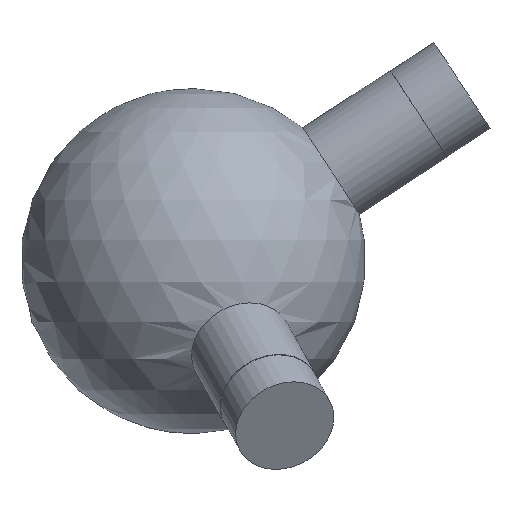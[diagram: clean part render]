
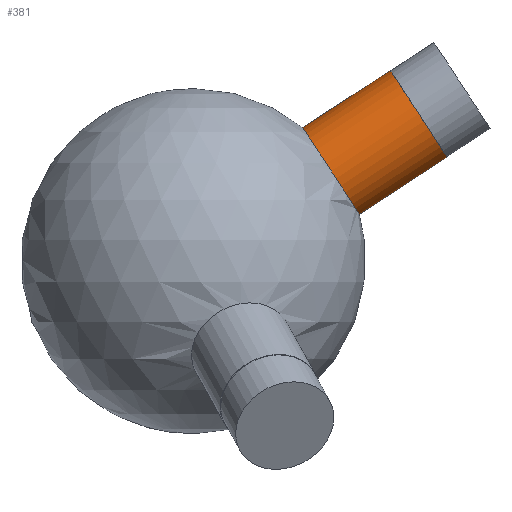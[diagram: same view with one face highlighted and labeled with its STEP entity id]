
A CAD part, front view. The second image highlights one B-rep face of the part: STEP entity #381.
In plain terms, the highlighted cylindrical face has radius 6 mm (diameter 12 mm), a full revolution.
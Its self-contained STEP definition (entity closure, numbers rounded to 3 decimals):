
#22 = VERTEX_POINT('',#23);
#23 = CARTESIAN_POINT('',(12.69,0.,
    15.459));
#33 = SPHERICAL_SURFACE('',#34,20.);
#34 = AXIS2_PLACEMENT_3D('',#35,#36,#37);
#35 = CARTESIAN_POINT('',(0.,0.,0.));
#36 = DIRECTION('',(0.,0.,1.));
#37 = DIRECTION('',(1.,0.,-0.));
#53 = EDGE_CURVE('',#54,#22,#56,.T.);
#54 = VERTEX_POINT('',#55);
#55 = CARTESIAN_POINT('',(12.688,0.108,15.459
    ));
#56 = SURFACE_CURVE('',#57,(#62,#72),.PCURVE_S1.);
#57 = CIRCLE('',#58,6.);
#58 = AXIS2_PLACEMENT_3D('',#59,#60,#61);
#59 = CARTESIAN_POINT('',(15.971,0.108,10.437
    ));
#60 = DIRECTION('',(0.837,0.006,0.547));
#61 = DIRECTION('',(-0.547,0.,0.837)
  );
#62 = PCURVE('',#33,#63);
#63 = DEFINITIONAL_REPRESENTATION('',(#64),#71);
#64 = B_SPLINE_CURVE_WITH_KNOTS('',5,(#65,#66,#67,#68,#69,#70),
  .UNSPECIFIED.,.F.,.F.,(6,6),(0.,0.018),
  .PIECEWISE_BEZIER_KNOTS.);
#65 = CARTESIAN_POINT('',(0.008,0.884));
#66 = CARTESIAN_POINT('',(0.007,0.884));
#67 = CARTESIAN_POINT('',(0.005,0.884));
#68 = CARTESIAN_POINT('',(0.003,0.884));
#69 = CARTESIAN_POINT('',(0.002,0.883));
#70 = CARTESIAN_POINT('',(0.,0.883));
#71 = ( GEOMETRIC_REPRESENTATION_CONTEXT(2) 
PARAMETRIC_REPRESENTATION_CONTEXT() REPRESENTATION_CONTEXT('2D SPACE',''
  ) );
#72 = PCURVE('',#73,#78);
#73 = CYLINDRICAL_SURFACE('',#74,6.);
#74 = AXIS2_PLACEMENT_3D('',#75,#76,#77);
#75 = CARTESIAN_POINT('',(0.,0.,0.));
#76 = DIRECTION('',(0.837,0.006,0.547));
#77 = DIRECTION('',(-0.547,0.,0.837)
  );
#78 = DEFINITIONAL_REPRESENTATION('',(#79),#83);
#79 = LINE('',#80,#81);
#80 = CARTESIAN_POINT('',(0.,19.079));
#81 = VECTOR('',#82,1.);
#82 = DIRECTION('',(1.,0.));
#83 = ( GEOMETRIC_REPRESENTATION_CONTEXT(2) 
PARAMETRIC_REPRESENTATION_CONTEXT() REPRESENTATION_CONTEXT('2D SPACE',''
  ) );
#85 = EDGE_CURVE('',#86,#54,#88,.T.);
#86 = VERTEX_POINT('',#87);
#87 = CARTESIAN_POINT('',(19.253,0.,
    5.415));
#88 = SURFACE_CURVE('',#89,(#94,#128),.PCURVE_S1.);
#89 = CIRCLE('',#90,6.);
#90 = AXIS2_PLACEMENT_3D('',#91,#92,#93);
#91 = CARTESIAN_POINT('',(15.971,0.108,10.437
    ));
#92 = DIRECTION('',(0.837,0.006,0.547));
#93 = DIRECTION('',(-0.547,0.,0.837)
  );
#94 = PCURVE('',#33,#95);
#95 = DEFINITIONAL_REPRESENTATION('',(#96),#127);
#96 = B_SPLINE_CURVE_WITH_KNOTS('',8,(#97,#98,#99,#100,#101,#102,#103,
    #104,#105,#106,#107,#108,#109,#110,#111,#112,#113,#114,#115,#116,
    #117,#118,#119,#120,#121,#122,#123,#124,#125,#126),.UNSPECIFIED.,.F.
  ,.F.,(9,7,7,7,9),(3.124,3.914,5.098,
    5.691,6.283),.UNSPECIFIED.);
#97 = CARTESIAN_POINT('',(0.,0.274));
#98 = CARTESIAN_POINT('',(0.031,0.274));
#99 = CARTESIAN_POINT('',(0.062,0.276));
#100 = CARTESIAN_POINT('',(0.092,0.281));
#101 = CARTESIAN_POINT('',(0.122,0.289));
#102 = CARTESIAN_POINT('',(0.151,0.3));
#103 = CARTESIAN_POINT('',(0.179,0.314));
#104 = CARTESIAN_POINT('',(0.206,0.33));
#105 = CARTESIAN_POINT('',(0.268,0.376));
#106 = CARTESIAN_POINT('',(0.301,0.408));
#107 = CARTESIAN_POINT('',(0.329,0.445));
#108 = CARTESIAN_POINT('',(0.352,0.486));
#109 = CARTESIAN_POINT('',(0.368,0.529));
#110 = CARTESIAN_POINT('',(0.377,0.574));
#111 = CARTESIAN_POINT('',(0.377,0.619));
#112 = CARTESIAN_POINT('',(0.363,0.685));
#113 = CARTESIAN_POINT('',(0.356,0.707));
#114 = CARTESIAN_POINT('',(0.346,0.728));
#115 = CARTESIAN_POINT('',(0.333,0.748));
#116 = CARTESIAN_POINT('',(0.318,0.767));
#117 = CARTESIAN_POINT('',(0.3,0.786));
#118 = CARTESIAN_POINT('',(0.279,0.803));
#119 = CARTESIAN_POINT('',(0.232,0.833));
#120 = CARTESIAN_POINT('',(0.206,0.847));
#121 = CARTESIAN_POINT('',(0.177,0.859));
#122 = CARTESIAN_POINT('',(0.146,0.868));
#123 = CARTESIAN_POINT('',(0.113,0.876));
#124 = CARTESIAN_POINT('',(0.079,0.881));
#125 = CARTESIAN_POINT('',(0.044,0.883));
#126 = CARTESIAN_POINT('',(0.008,0.884));
#127 = ( GEOMETRIC_REPRESENTATION_CONTEXT(2) 
PARAMETRIC_REPRESENTATION_CONTEXT() REPRESENTATION_CONTEXT('2D SPACE',''
  ) );
#128 = PCURVE('',#73,#129);
#129 = DEFINITIONAL_REPRESENTATION('',(#130),#134);
#130 = LINE('',#131,#132);
#131 = CARTESIAN_POINT('',(0.,19.079));
#132 = VECTOR('',#133,1.);
#133 = DIRECTION('',(1.,0.));
#134 = ( GEOMETRIC_REPRESENTATION_CONTEXT(2) 
PARAMETRIC_REPRESENTATION_CONTEXT() REPRESENTATION_CONTEXT('2D SPACE',''
  ) );
#161 = EDGE_CURVE('',#22,#86,#162,.T.);
#162 = SURFACE_CURVE('',#163,(#168,#202),.PCURVE_S1.);
#163 = CIRCLE('',#164,6.);
#164 = AXIS2_PLACEMENT_3D('',#165,#166,#167);
#165 = CARTESIAN_POINT('',(15.971,0.108,
    10.437));
#166 = DIRECTION('',(0.837,0.006,0.547));
#167 = DIRECTION('',(-0.547,0.,0.837)
  );
#168 = PCURVE('',#33,#169);
#169 = DEFINITIONAL_REPRESENTATION('',(#170),#201);
#170 = B_SPLINE_CURVE_WITH_KNOTS('',8,(#171,#172,#173,#174,#175,#176,
    #177,#178,#179,#180,#181,#182,#183,#184,#185,#186,#187,#188,#189,
    #190,#191,#192,#193,#194,#195,#196,#197,#198,#199,#200),
  .UNSPECIFIED.,.F.,.F.,(9,7,7,7,9),(0.018,0.406,
    1.086,2.105,3.124),.UNSPECIFIED.);
#171 = CARTESIAN_POINT('',(6.283,0.883));
#172 = CARTESIAN_POINT('',(6.26,0.883));
#173 = CARTESIAN_POINT('',(6.237,0.882));
#174 = CARTESIAN_POINT('',(6.215,0.879));
#175 = CARTESIAN_POINT('',(6.192,0.876));
#176 = CARTESIAN_POINT('',(6.171,0.872));
#177 = CARTESIAN_POINT('',(6.15,0.866));
#178 = CARTESIAN_POINT('',(6.13,0.86));
#179 = CARTESIAN_POINT('',(6.077,0.84));
#180 = CARTESIAN_POINT('',(6.046,0.824));
#181 = CARTESIAN_POINT('',(6.019,0.807));
#182 = CARTESIAN_POINT('',(5.995,0.787));
#183 = CARTESIAN_POINT('',(5.976,0.765));
#184 = CARTESIAN_POINT('',(5.96,0.743));
#185 = CARTESIAN_POINT('',(5.947,0.719));
#186 = CARTESIAN_POINT('',(5.924,0.657));
#187 = CARTESIAN_POINT('',(5.918,0.619));
#188 = CARTESIAN_POINT('',(5.919,0.58));
#189 = CARTESIAN_POINT('',(5.926,0.542));
#190 = CARTESIAN_POINT('',(5.939,0.505));
#191 = CARTESIAN_POINT('',(5.957,0.469));
#192 = CARTESIAN_POINT('',(5.979,0.436));
#193 = CARTESIAN_POINT('',(6.03,0.376));
#194 = CARTESIAN_POINT('',(6.06,0.349));
#195 = CARTESIAN_POINT('',(6.092,0.325));
#196 = CARTESIAN_POINT('',(6.128,0.306));
#197 = CARTESIAN_POINT('',(6.165,0.291));
#198 = CARTESIAN_POINT('',(6.204,0.28));
#199 = CARTESIAN_POINT('',(6.243,0.275));
#200 = CARTESIAN_POINT('',(6.283,0.274));
#201 = ( GEOMETRIC_REPRESENTATION_CONTEXT(2) 
PARAMETRIC_REPRESENTATION_CONTEXT() REPRESENTATION_CONTEXT('2D SPACE',''
  ) );
#202 = PCURVE('',#73,#203);
#203 = DEFINITIONAL_REPRESENTATION('',(#204),#208);
#204 = LINE('',#205,#206);
#205 = CARTESIAN_POINT('',(0.,19.079));
#206 = VECTOR('',#207,1.);
#207 = DIRECTION('',(1.,0.));
#208 = ( GEOMETRIC_REPRESENTATION_CONTEXT(2) 
PARAMETRIC_REPRESENTATION_CONTEXT() REPRESENTATION_CONTEXT('2D SPACE',''
  ) );
#381 = ADVANCED_FACE('',(#382),#73,.T.);
#382 = FACE_BOUND('',#383,.T.);
#383 = EDGE_LOOP('',(#384,#407,#434,#435,#436,#437));
#384 = ORIENTED_EDGE('',*,*,#385,.T.);
#385 = EDGE_CURVE('',#54,#386,#388,.T.);
#386 = VERTEX_POINT('',#387);
#387 = CARTESIAN_POINT('',(22.835,0.176,
    22.09));
#388 = SEAM_CURVE('',#389,(#393,#400),.PCURVE_S1.);
#389 = LINE('',#390,#391);
#390 = CARTESIAN_POINT('',(-3.282,0.,
    5.023));
#391 = VECTOR('',#392,1.);
#392 = DIRECTION('',(0.837,0.006,0.547));
#393 = PCURVE('',#73,#394);
#394 = DEFINITIONAL_REPRESENTATION('',(#395),#399);
#395 = LINE('',#396,#397);
#396 = CARTESIAN_POINT('',(6.283,-0.));
#397 = VECTOR('',#398,1.);
#398 = DIRECTION('',(0.,1.));
#399 = ( GEOMETRIC_REPRESENTATION_CONTEXT(2) 
PARAMETRIC_REPRESENTATION_CONTEXT() REPRESENTATION_CONTEXT('2D SPACE',''
  ) );
#400 = PCURVE('',#73,#401);
#401 = DEFINITIONAL_REPRESENTATION('',(#402),#406);
#402 = LINE('',#403,#404);
#403 = CARTESIAN_POINT('',(0.,-0.));
#404 = VECTOR('',#405,1.);
#405 = DIRECTION('',(0.,1.));
#406 = ( GEOMETRIC_REPRESENTATION_CONTEXT(2) 
PARAMETRIC_REPRESENTATION_CONTEXT() REPRESENTATION_CONTEXT('2D SPACE',''
  ) );
#407 = ORIENTED_EDGE('',*,*,#408,.F.);
#408 = EDGE_CURVE('',#386,#386,#409,.T.);
#409 = SURFACE_CURVE('',#410,(#415,#422),.PCURVE_S1.);
#410 = CIRCLE('',#411,6.);
#411 = AXIS2_PLACEMENT_3D('',#412,#413,#414);
#412 = CARTESIAN_POINT('',(26.117,0.176,
    17.067));
#413 = DIRECTION('',(0.837,0.006,0.547));
#414 = DIRECTION('',(-0.547,0.,0.837)
  );
#415 = PCURVE('',#73,#416);
#416 = DEFINITIONAL_REPRESENTATION('',(#417),#421);
#417 = LINE('',#418,#419);
#418 = CARTESIAN_POINT('',(0.,31.2));
#419 = VECTOR('',#420,1.);
#420 = DIRECTION('',(1.,0.));
#421 = ( GEOMETRIC_REPRESENTATION_CONTEXT(2) 
PARAMETRIC_REPRESENTATION_CONTEXT() REPRESENTATION_CONTEXT('2D SPACE',''
  ) );
#422 = PCURVE('',#423,#428);
#423 = PLANE('',#424);
#424 = AXIS2_PLACEMENT_3D('',#425,#426,#427);
#425 = CARTESIAN_POINT('',(26.117,0.176,
    17.067));
#426 = DIRECTION('',(0.837,0.006,0.547));
#427 = DIRECTION('',(-0.547,0.,0.837)
  );
#428 = DEFINITIONAL_REPRESENTATION('',(#429),#433);
#429 = CIRCLE('',#430,6.);
#430 = AXIS2_PLACEMENT_2D('',#431,#432);
#431 = CARTESIAN_POINT('',(0.,0.));
#432 = DIRECTION('',(1.,0.));
#433 = ( GEOMETRIC_REPRESENTATION_CONTEXT(2) 
PARAMETRIC_REPRESENTATION_CONTEXT() REPRESENTATION_CONTEXT('2D SPACE',''
  ) );
#434 = ORIENTED_EDGE('',*,*,#385,.F.);
#435 = ORIENTED_EDGE('',*,*,#53,.T.);
#436 = ORIENTED_EDGE('',*,*,#161,.T.);
#437 = ORIENTED_EDGE('',*,*,#85,.T.);
